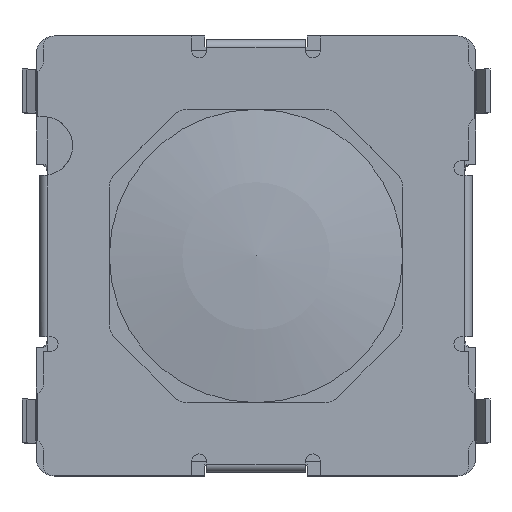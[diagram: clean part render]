
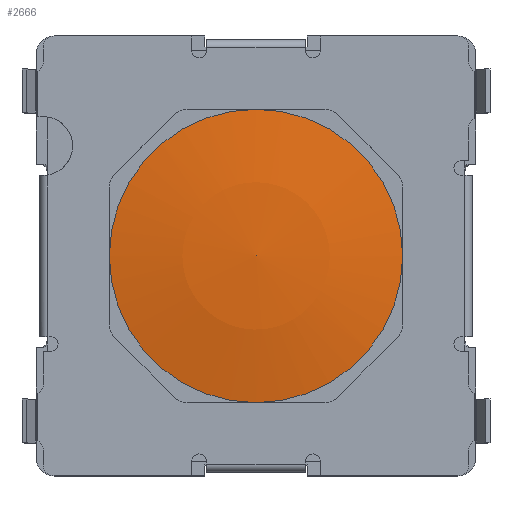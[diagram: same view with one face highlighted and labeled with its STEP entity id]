
A CAD part, top view. The second image highlights one B-rep face of the part: STEP entity #2666.
In plain terms, the highlighted spherical face has radius 11.201 mm.
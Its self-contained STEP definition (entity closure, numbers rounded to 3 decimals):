
#2515 = VERTEX_POINT ( 'NONE', #10893 ) ;
#2517 = EDGE_CURVE ( 'NONE', #2580, #2515, #10892, .T. ) ;
#2519 = VERTEX_POINT ( 'NONE', #10883 ) ;
#2522 = EDGE_CURVE ( 'NONE', #2523, #2519, #10881, .T. ) ;
#2523 = VERTEX_POINT ( 'NONE', #10876 ) ;
#2580 = VERTEX_POINT ( 'NONE', #11022 ) ;
#2582 = EDGE_CURVE ( 'NONE', #2519, #2580, #11021, .T. ) ;
#2631 = EDGE_CURVE ( 'NONE', #2515, #2523, #11156, .T. ) ;
#2632 = EDGE_LOOP ( 'NONE', ( #2674, #2667, #2668, #2671 ) ) ;
#2666 = ADVANCED_FACE ( 'NONE', ( #11235 ), #11272, .T. ) ;
#2667 = ORIENTED_EDGE ( 'NONE', *, *, #2517, .T. ) ;
#2668 = ORIENTED_EDGE ( 'NONE', *, *, #2631, .T. ) ;
#2671 = ORIENTED_EDGE ( 'NONE', *, *, #2522, .T. ) ;
#2674 = ORIENTED_EDGE ( 'NONE', *, *, #2582, .T. ) ;
#10876 = CARTESIAN_POINT ( 'NONE',  ( 2., 0.72, 0. ) ) ;
#10877 = DIRECTION ( 'NONE',  ( 0., 0., -1. ) ) ;
#10878 = DIRECTION ( 'NONE',  ( 0., 1., 0. ) ) ;
#10879 = CARTESIAN_POINT ( 'NONE',  ( 0., 0.72, 0. ) ) ;
#10880 = AXIS2_PLACEMENT_3D ( 'NONE', #10879, #10878, #10877 ) ;
#10881 = CIRCLE ( 'NONE', #10880, 2. ) ;
#10883 = CARTESIAN_POINT ( 'NONE',  ( 0., 0.72, -2. ) ) ;
#10888 = DIRECTION ( 'NONE',  ( 0., 0., -1. ) ) ;
#10889 = DIRECTION ( 'NONE',  ( 0., 1., 0. ) ) ;
#10890 = CARTESIAN_POINT ( 'NONE',  ( 0., 0.72, 0. ) ) ;
#10891 = AXIS2_PLACEMENT_3D ( 'NONE', #10890, #10889, #10888 ) ;
#10892 = CIRCLE ( 'NONE', #10891, 2. ) ;
#10893 = CARTESIAN_POINT ( 'NONE',  ( 0., 0.72, 2. ) ) ;
#11017 = DIRECTION ( 'NONE',  ( 0., 0., -1. ) ) ;
#11018 = DIRECTION ( 'NONE',  ( 0., 1., 0. ) ) ;
#11019 = CARTESIAN_POINT ( 'NONE',  ( 0., 0.72, 0. ) ) ;
#11020 = AXIS2_PLACEMENT_3D ( 'NONE', #11019, #11018, #11017 ) ;
#11021 = CIRCLE ( 'NONE', #11020, 2. ) ;
#11022 = CARTESIAN_POINT ( 'NONE',  ( -2., 0.72, 0. ) ) ;
#11152 = DIRECTION ( 'NONE',  ( 0., 0., -1. ) ) ;
#11153 = DIRECTION ( 'NONE',  ( 0., 1., 0. ) ) ;
#11154 = CARTESIAN_POINT ( 'NONE',  ( 0., 0.72, 0. ) ) ;
#11155 = AXIS2_PLACEMENT_3D ( 'NONE', #11154, #11153, #11152 ) ;
#11156 = CIRCLE ( 'NONE', #11155, 2. ) ;
#11219 = CARTESIAN_POINT ( 'NONE',  ( 0., -10.301, 0. ) ) ;
#11235 = FACE_OUTER_BOUND ( 'NONE', #2632, .T. ) ;
#11269 = DIRECTION ( 'NONE',  ( 1., 0., 0. ) ) ;
#11270 = DIRECTION ( 'NONE',  ( 0., 1., 0. ) ) ;
#11271 = AXIS2_PLACEMENT_3D ( 'NONE', #11219, #11270, #11269 ) ;
#11272 = SPHERICAL_SURFACE ( 'NONE', #11271, 11.201 ) ;
